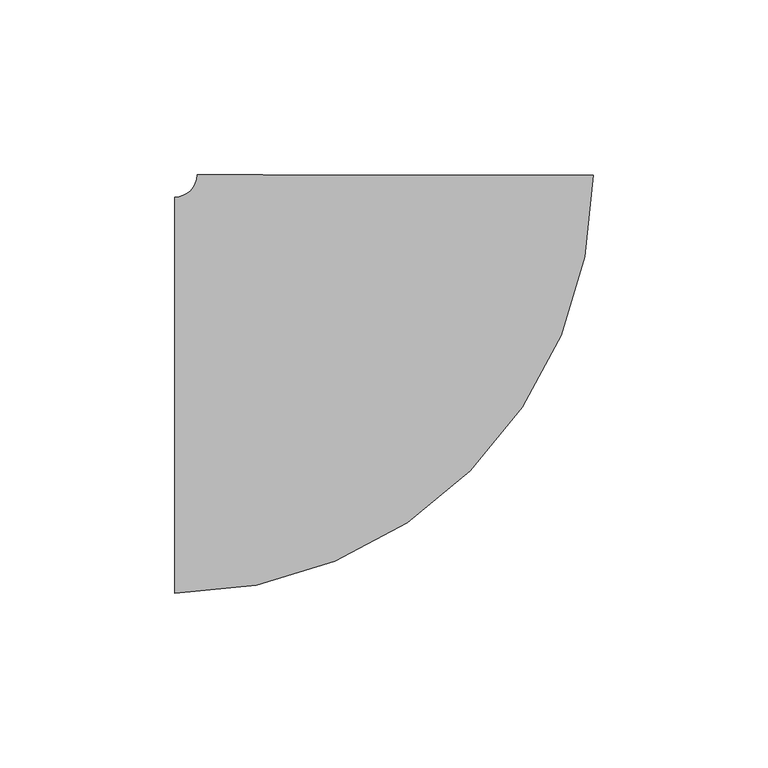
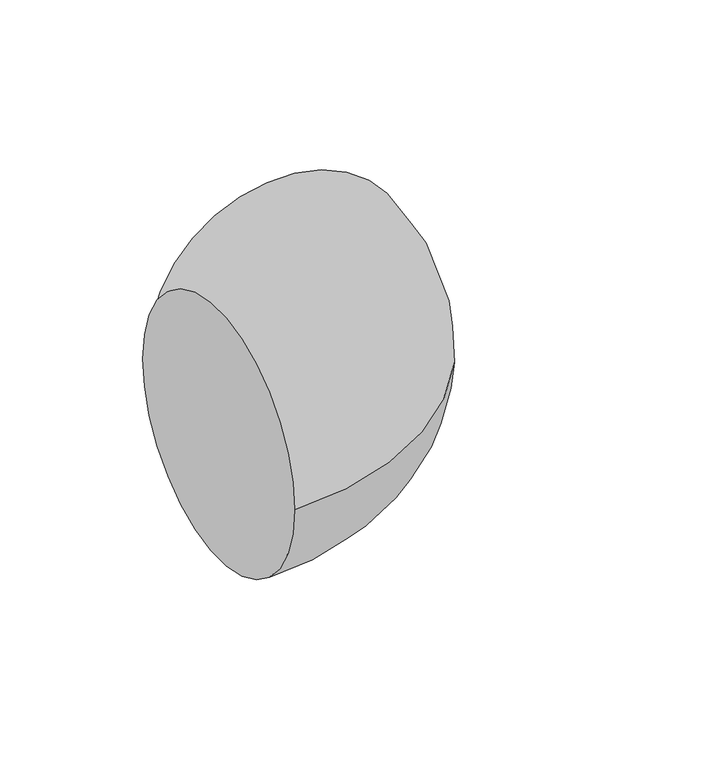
"""IFC4 building model written with IfcOpenShell, lengths in millimetres: pipe fitting geometry, M_Codo - Genérico : Estándar."""

import ifcopenshell
import ifcopenshell.guid

model = None  # the IFC model being written
_history = None  # IfcOwnerHistory: only IFC2X3 demands one
_inside = {}  # id of a spatial element -> (the spatial element, [elements in it])
_under = {}  # id of a project, library or spatial element -> (it, [spatial elements below it])
_declared = {}  # id of a project -> (the project, [libraries it declares])
_typed = {}  # id of a type object -> (the type object, [elements of that type])
_made_of = {}  # id of a material, layer set ... -> (it, [elements and type objects made of it])


def new_model(schema):
    """Start an empty IFC model of exactly this schema.

    Asked for "IFC4X3", IfcOpenShell would pick the latest addendum, in which some entities
    have other attributes; the version numbers below select the first issue.
    IFC2X3 requires an IfcOwnerHistory on every rooted entity: one is made here for all.
    """
    global model, _history
    if schema == "IFC4X3":
        model = ifcopenshell.file(schema_version=(4, 3, 0, 0))
    else:
        model = ifcopenshell.file(schema=schema)
    _inside.clear()
    _under.clear()
    _declared.clear()
    _typed.clear()
    _made_of.clear()
    _history = None
    if model.schema == "IFC2X3":
        org = make("IfcOrganization", Name="unknown")
        user = make(
            "IfcPersonAndOrganization",
            ThePerson=make("IfcPerson", FamilyName="unknown"),
            TheOrganization=org,
        )
        app = make(
            "IfcApplication",
            ApplicationDeveloper=org,
            Version="unknown",
            ApplicationFullName="unknown",
            ApplicationIdentifier="unknown",
        )
        _history = make(
            "IfcOwnerHistory",
            OwningUser=user,
            OwningApplication=app,
            ChangeAction="ADDED",
            CreationDate=0,
        )
    return model


def make(cls, **values):
    """One entity of the class cls with the attributes given. An attribute that is None is left unset."""
    return model.create_entity(
        cls, **{name: value for name, value in values.items() if value is not None}
    )


def rooted(cls, **values):
    """An entity with a GlobalId (a new one), such as an element, a storey or a relation."""
    return make(cls, GlobalId=ifcopenshell.guid.new(), OwnerHistory=_history, **values)


def si_unit(unit_type, name, prefix=None):
    """IfcSIUnit, for example si_unit("LENGTHUNIT", "METRE", prefix="MILLI")."""
    return make("IfcSIUnit", UnitType=unit_type, Prefix=prefix, Name=name)


def assignment(units):
    """IfcUnitAssignment: the units of a project."""
    return None if units is None else make("IfcUnitAssignment", Units=units)


def point(xyz):
    """IfcCartesianPoint."""
    return None if xyz is None else make("IfcCartesianPoint", Coordinates=xyz)


def direction(xyz):
    """IfcDirection."""
    return None if xyz is None else make("IfcDirection", DirectionRatios=xyz)


def frame(location, z_axis=None, x_axis=None):
    """IfcAxis2Placement3D, a coordinate frame: its origin and axes. An axis left out is left unset."""
    return make(
        "IfcAxis2Placement3D",
        Location=point(location),
        Axis=direction(z_axis),
        RefDirection=direction(x_axis),
    )


def origin():
    """The frame at (0, 0, 0) with its axes left unset."""
    return frame((0.0, 0.0, 0.0))


def place(relative_to, where):
    """IfcLocalPlacement: puts the frame where relative to a parent placement (None: the world)."""
    return make(
        "IfcLocalPlacement", PlacementRelTo=relative_to, RelativePlacement=where
    )


def context(
    kind, dimensions, precision=None, world=None, true_north=None, identifier=None
):
    """IfcGeometricRepresentationContext, for example the 3D "Model" context."""
    return make(
        "IfcGeometricRepresentationContext",
        ContextIdentifier=identifier,
        ContextType=kind,
        CoordinateSpaceDimension=dimensions,
        Precision=precision,
        WorldCoordinateSystem=world,
        TrueNorth=true_north,
    )


def project(units=None, contexts=None):
    """IfcProject with its units and contexts."""
    return rooted(
        "IfcProject",
        Name="project",
        RepresentationContexts=contexts,
        UnitsInContext=assignment(units),
    )


def spatial(cls, under=None, at=None, **own):
    """A site, building, storey or space (cls), placed at a placement, below another one or the project."""
    s = rooted(cls, ObjectPlacement=at, **own)
    if under is not None:
        _under.setdefault(under.id(), (under, []))[1].append(s)
    return s


def circle_curve(where, radius):
    """IfcCircle in the frame where."""
    return make("IfcCircle", Position=where, Radius=radius)


def ellipse_curve(where, semi_axis1, semi_axis2):
    """IfcEllipse in the frame where."""
    return make(
        "IfcEllipse", Position=where, SemiAxis1=semi_axis1, SemiAxis2=semi_axis2
    )


def trimmed(basis, trim1, trim2, sense, master):
    """IfcTrimmedCurve: the piece of a basis curve between two trims."""
    return make(
        "IfcTrimmedCurve",
        BasisCurve=basis,
        Trim1=trim1,
        Trim2=trim2,
        SenseAgreement=sense,
        MasterRepresentation=master,
    )


def shape(context_of_items, identifier, shape_type, items):
    """IfcShapeRepresentation: the items that make up one representation, for example the "Body"."""
    return make(
        "IfcShapeRepresentation",
        ContextOfItems=context_of_items,
        RepresentationIdentifier=identifier,
        RepresentationType=shape_type,
        Items=items,
    )


def source(mapping_origin, context_of_items, identifier, shape_type, items):
    """IfcRepresentationMap: a shape defined once, which mapped items show again and again."""
    return make(
        "IfcRepresentationMap",
        MappingOrigin=mapping_origin,
        MappedRepresentation=shape(context_of_items, identifier, shape_type, items),
    )


def transform(
    local_origin,
    x_axis=None,
    y_axis=None,
    z_axis=None,
    scale=None,
    scale2=None,
    scale3=None,
    uniform=True,
):
    """IfcCartesianTransformationOperator3D, or its non-uniform kind. x_axis, y_axis, z_axis: its Axis1, 2, 3."""
    if uniform:
        return make(
            "IfcCartesianTransformationOperator3D",
            Axis1=direction(x_axis),
            Axis2=direction(y_axis),
            LocalOrigin=point(local_origin),
            Scale=scale,
            Axis3=direction(z_axis),
        )
    return make(
        "IfcCartesianTransformationOperator3DnonUniform",
        Axis1=direction(x_axis),
        Axis2=direction(y_axis),
        LocalOrigin=point(local_origin),
        Scale=scale,
        Axis3=direction(z_axis),
        Scale2=scale2,
        Scale3=scale3,
    )


def mapped(mapping_source, mapping_target):
    """IfcMappedItem: shows the shape of a source again, moved by a transform."""
    return make(
        "IfcMappedItem", MappingSource=mapping_source, MappingTarget=mapping_target
    )


def made_of(thing, what):
    """Note that an element or type object is made of a material, layer set ...; save() writes the relation."""
    if what is not None:
        _made_of.setdefault(what.id(), (what, []))[1].append(thing)
    return thing


def element(
    cls,
    number,
    at=None,
    inside=None,
    cuts=None,
    type_object=None,
    material=None,
    context=None,
    identifier="Body",
    shape_type=None,
    held_by="IfcProductDefinitionShape",
    body=None,
    shapes=None,
    **own,
):
    """One element of the class cls, such as IfcWall. Its Tag is "e" and its number.

    at: its placement. inside: the storey or other place that contains it. cuts: it is an
    opening in that element (IfcRelVoidsElement). A single representation is given by context,
    identifier, shape_type and body (its items); several are given by shapes. held_by: the class
    of the entity that holds the representations. save() writes the other relations.
    """
    e = rooted(cls, Tag="e%d" % number, ObjectPlacement=at, **own)
    if body is not None:
        shapes = [shape(context, identifier, shape_type, body)]
    if shapes is not None:
        e.Representation = make(held_by, Representations=shapes)
    if inside is not None:
        _inside.setdefault(inside.id(), (inside, []))[1].append(e)
    if cuts is not None:
        rooted(
            "IfcRelVoidsElement", RelatingBuildingElement=cuts, RelatedOpeningElement=e
        )
    if type_object is not None:
        _typed.setdefault(type_object.id(), (type_object, []))[1].append(e)
    return made_of(e, material)


def aggregate(whole, parts):
    """IfcRelAggregates: a whole, such as a stair, and the parts it consists of."""
    return rooted("IfcRelAggregates", RelatingObject=whole, RelatedObjects=parts)


def save(model, path):
    """Write the relations noted so far, then the file.

    IfcRelAggregates (storeys below a building ...), IfcRelContainedInSpatialStructure (elements
    in a storey), IfcRelDefinesByType, IfcRelAssociatesMaterial and IfcRelDeclares: one each for
    every whole, place, type object, material and project.
    """
    for whole, parts in _under.values():
        aggregate(whole, parts)
    for where, things in _inside.values():
        rooted(
            "IfcRelContainedInSpatialStructure",
            RelatedElements=things,
            RelatingStructure=where,
        )
    for kind, things in _typed.values():
        rooted("IfcRelDefinesByType", RelatedObjects=things, RelatingType=kind)
    for what, things in _made_of.values():
        rooted("IfcRelAssociatesMaterial", RelatedObjects=things, RelatingMaterial=what)
    for by, libraries in _declared.values():
        rooted("IfcRelDeclares", RelatingContext=by, RelatedDefinitions=libraries)
    model.write(path)


def plane_surface(at):
    """IfcPlane: the flat surface through the origin of the frame at, square to its z axis."""
    return make("IfcPlane", Position=at)


def revolved_surface(curve, axis_point, axis_direction):
    """IfcSurfaceOfRevolution: the curve turned about the line through axis_point along axis_direction."""
    return make(
        "IfcSurfaceOfRevolution",
        SweptCurve=make("IfcArbitraryOpenProfileDef", ProfileType="CURVE", Curve=curve),
        AxisPosition=make("IfcAxis1Placement", Location=point(axis_point), Axis=direction(axis_direction)),
    )


def advanced_brep(points, edges, surfaces, faces):
    """IfcAdvancedBrep: a solid bounded by faces that lie on surfaces and meet in shared edges.

    An edge is (start, end): straight between two places in points (the first is 0);
    or (start, end, curve); or (start, end, curve, False) where it runs against its curve.
    A face is (place in surfaces, loops), or (place, loops, False) where it looks against
    its surface's normal. A loop lists edges by number (the first is 1), with a minus sign
    where the edge is run from its end to its start. The first loop is the outer one.
    """
    corners = [point(p) for p in points]
    vertices = [make("IfcVertexPoint", VertexGeometry=c) for c in corners]
    made = []
    for start, end, *more in edges:
        made.append(
            make(
                "IfcEdgeCurve",
                EdgeStart=vertices[start],
                EdgeEnd=vertices[end],
                EdgeGeometry=more[0] if more else make("IfcPolyline", Points=[corners[start], corners[end]]),
                SameSense=more[1] if len(more) > 1 else True,
            )
        )
    hull = []
    for where, loops, *sense in faces:
        bounds = []
        for j, loop in enumerate(loops):
            ring = [make("IfcOrientedEdge", EdgeElement=made[abs(k) - 1], Orientation=k > 0) for k in loop]
            bounds.append(
                make(
                    "IfcFaceOuterBound" if j == 0 else "IfcFaceBound",
                    Bound=make("IfcEdgeLoop", EdgeList=ring),
                    Orientation=True,
                )
            )
        hull.append(make("IfcAdvancedFace", Bounds=bounds, FaceSurface=surfaces[where], SameSense=sense[0] if sense else True))
    return make("IfcAdvancedBrep", Outer=make("IfcClosedShell", CfsFaces=hull))


def pipe_fitting_2d7a21c9(model_context):
    return source(origin(), model_context, "Body", "AdvancedBrep", [
        advanced_brep(
        [(-62.8784883, -56.5875, 0.0), (-62.8784883, 56.5875, 0.0), (56.6464591, 62.825378, 0.0), (-56.5284911, 62.9315433, 0.0)],
        [
            (0, 1, circle_curve(frame((-62.8784883, 0.0, 0.0), z_axis=(-1.0, 0.0, 0.0), x_axis=(0.0, 1.0, 0.0)), 56.5875)),
            (1, 0, circle_curve(frame((-62.8784883, 0.0, 0.0), z_axis=(-1.0, 0.0, 0.0), x_axis=(0.0, 1.0, 0.0)), 56.5875)),
            (2, 3, circle_curve(frame((0.058984, 62.8784606, 0.0), z_axis=(0.0009380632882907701, 0.9999995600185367, 0.0), x_axis=(-0.9999995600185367, 0.0009380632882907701, 0.0)), 56.5875)),
            (3, 2, circle_curve(frame((0.058984, 62.8784606, 0.0), z_axis=(0.0009380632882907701, 0.9999995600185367, 0.0), x_axis=(-0.9999995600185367, 0.0009380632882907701, 0.0)), 56.5875)),
            (3, 1, circle_curve(frame((-62.8784883, 62.9375, 0.0), z_axis=(0.0, 0.0, -1.0), x_axis=(0.0, -1.0, 0.0)), 6.35)),
            (0, 2, circle_curve(frame((-62.8784883, 62.9375, 0.0), z_axis=(0.0, 0.0, 1.0), x_axis=(0.0, -1.0, 0.0)), 119.525)),
        ],
        [
            plane_surface(frame((-62.8784883, 0.0, 0.0), z_axis=(-1.0, 0.0, 0.0), x_axis=(0.0, 0.0, 1.0))),
            plane_surface(frame((0.058984, 62.8784606, 0.0), z_axis=(0.0009380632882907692, 0.9999995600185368, 0.0), x_axis=(0.0, 0.0, 1.0))),
            revolved_surface(trimmed(ellipse_curve(frame((-62.8784883, 0.0, 0.0), z_axis=(-1.0, 0.0, 0.0), x_axis=(0.0, 1.0, 0.0)), 56.5875, 56.5875), [point((-62.8784883, -56.5875, 0.0))], [point((-62.8784883, 56.5875, 0.0))], True, "CARTESIAN"), (-62.8784883, 62.9375, 0.0), (0.0, 0.0, 1.0)),
            revolved_surface(trimmed(ellipse_curve(frame((-62.8784883, 0.0, 0.0), z_axis=(-1.0, 0.0, 0.0), x_axis=(0.0, 1.0, 0.0)), 56.5875, 56.5875), [point((-62.8784883, 56.5875, 0.0))], [point((-62.8784883, -56.5875, 0.0))], True, "CARTESIAN"), (-62.8784883, 62.9375, 0.0), (0.0, 0.0, 1.0)),
        ],
        [
            (0, [[1, 2]]),
            (1, [[3, 4]]),
            (2, [[5, -1, 6, -4]]),
            (3, [[-6, -2, -5, -3]]),
        ],
    ),
    ])


if __name__ == "__main__":
    model = new_model("IFC4")
    model_context = context("Model", 3, world=origin())
    ifc_project = project(units=[si_unit("LENGTHUNIT", "METRE", prefix="MILLI")], contexts=[model_context])
    site = spatial("IfcSite", under=ifc_project)
    building = spatial("IfcBuilding", under=site)
    placement = place(None, origin())
    pipe_fitting_shape = pipe_fitting_2d7a21c9(model_context)
    element("IfcPipeFitting", 1, ObjectType="M_Codo - Genérico : Estándar", at=placement, inside=building, context=model_context, shape_type="MappedRepresentation", body=[
        mapped(pipe_fitting_shape, transform((0.0, 0.0, 0.0), x_axis=(1.0, 0.0, 0.0), y_axis=(0.0, 1.0, 0.0), z_axis=(0.0, 0.0, 1.0))),
    ])
    save(model, "model.ifc")
